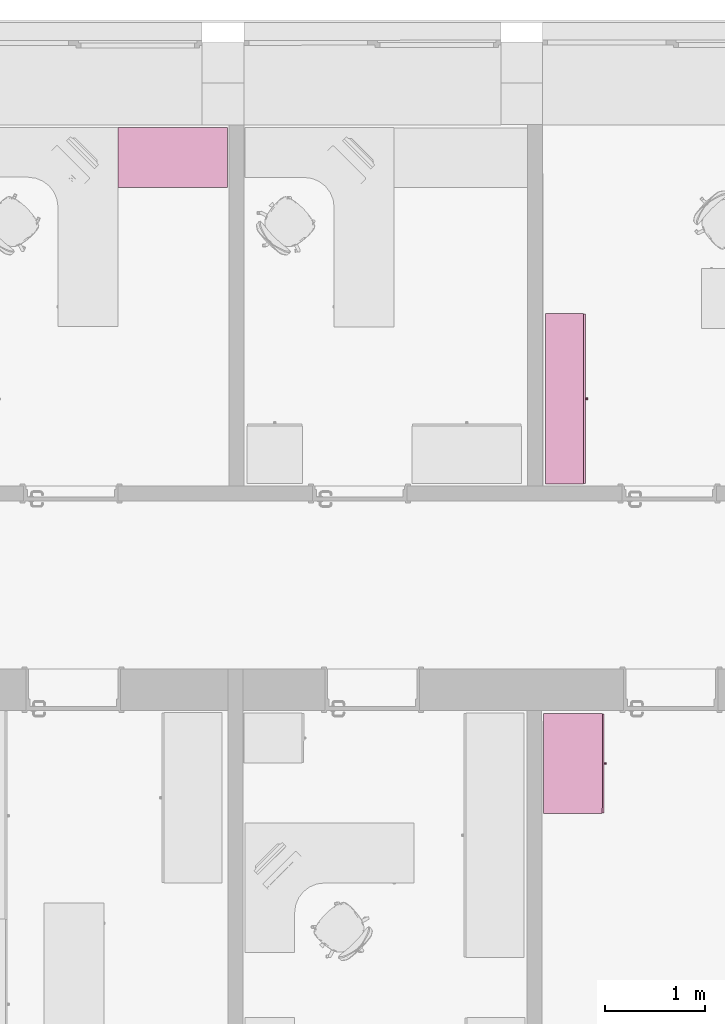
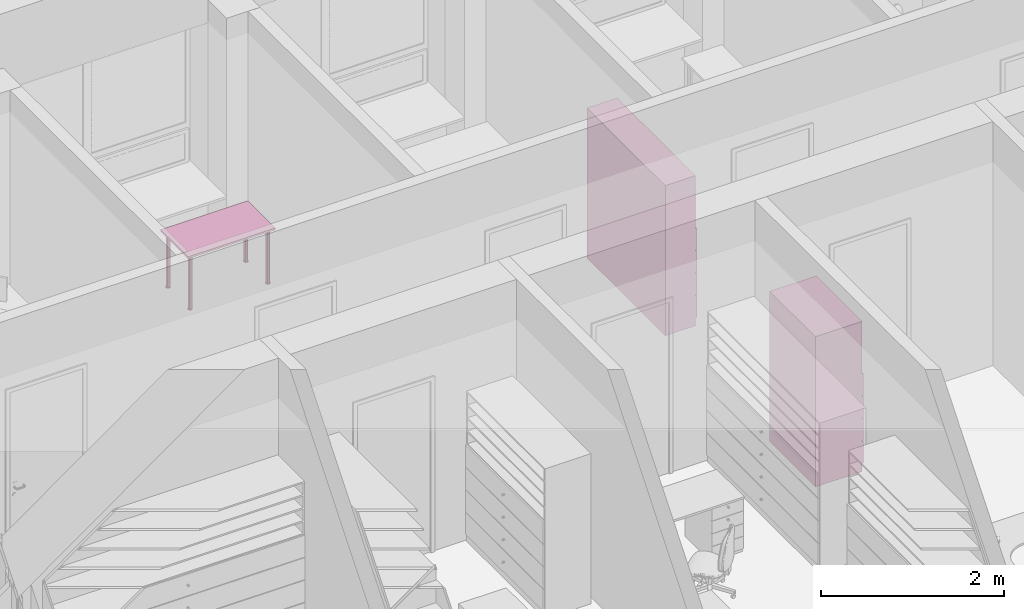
# One storey, part 143 of 194: 3 furnishings.
"""IFC2X3 building model written with IfcOpenShell, lengths in millimetres."""

from ifc_helpers import new_model, entity, si_unit, converted_unit, derived_unit, money_unit, direction, frame, origin_with_axes, place, context, subcontext, project, spatial, faceted_brep, source, transform, mapped, type_object, element, save


model = new_model("IFC2X3")

# Units and contexts
model_context = context("Model", 3, precision=1e-05, world=origin_with_axes(), true_north=direction((0.0, 1.0)))
body_context = subcontext(model_context, "Body", "Model", "MODEL_VIEW")
ifc_project = project(units=[si_unit("LENGTHUNIT", "METRE", prefix="MILLI"), si_unit("AREAUNIT", "SQUARE_METRE"), si_unit("VOLUMEUNIT", "CUBIC_METRE"), converted_unit("PLANEANGLEUNIT", "DEGREE", entity("IfcPlaneAngleMeasure", 0.0174532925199), si_unit("PLANEANGLEUNIT", "RADIAN"), dimensions=[0, 0, 0, 0, 0, 0, 0]), si_unit("SOLIDANGLEUNIT", "STERADIAN"), money_unit("EUR"), converted_unit("TIMEUNIT", "Year", entity("IfcTimeMeasure", 31556926.0), si_unit("TIMEUNIT", "SECOND"), dimensions=[0, 0, 1, 0, 0, 0, 0]), si_unit("MASSUNIT", "GRAM", prefix="KILO"), si_unit("THERMODYNAMICTEMPERATUREUNIT", "DEGREE_CELSIUS"), si_unit("LUMINOUSINTENSITYUNIT", "LUMEN"), si_unit("ENERGYUNIT", "JOULE", prefix="MEGA"), derived_unit("THERMALCONDUCTANCEUNIT", [(si_unit("POWERUNIT", "WATT"), 1), (si_unit("LENGTHUNIT", "METRE"), -1), (si_unit("THERMODYNAMICTEMPERATUREUNIT", "KELVIN"), -1)]), derived_unit("SPECIFICHEATCAPACITYUNIT", [(si_unit("ENERGYUNIT", "JOULE"), 1), (si_unit("MASSUNIT", "GRAM", prefix="KILO"), -1), (si_unit("THERMODYNAMICTEMPERATUREUNIT", "KELVIN"), -1)]), derived_unit("MASSDENSITYUNIT", [(si_unit("MASSUNIT", "GRAM", prefix="KILO"), 1), (si_unit("VOLUMEUNIT", "CUBIC_METRE"), -1)])], contexts=[model_context])

# Site, building, storey
site_placement = place(None, origin_with_axes())
site = spatial("IfcSite", under=ifc_project, at=site_placement, Name="Site", CompositionType="ELEMENT")
building_placement = place(site_placement, origin_with_axes())
building = spatial("IfcBuilding", under=site, at=building_placement, Name="Building", CompositionType="ELEMENT")
storey_placement = place(building_placement, frame((0.0, 0.0, 3000.0), z_axis=(0.0, 0.0, 1.0), x_axis=(1.0, 0.0, 0.0)))
storey = spatial("IfcBuildingStorey", under=building, at=storey_placement, Name="2 KORRUS", CompositionType="ELEMENT", Elevation=3000.0)

# Furnishings
furnishing_element_type_1 = type_object("IfcFurnishingElementType", Name="Model Element 120")
shared_shape_1 = source(origin_with_axes(), body_context, "Body", "Brep", [
    faceted_brep([(0.0, 0.0, 725.0), (1100.0, 0.0, 725.0), (1100.0, 0.0, 750.0), (0.0, 0.0, 750.0), (0.0, 600.0, 725.0), (1100.0, 600.0, 725.0), (1100.0, 600.0, 750.0), (0.0, 600.0, 750.0)], [[[0, 1, 2, 3]], [[0, 4, 5, 1]], [[1, 5, 6, 2]], [[3, 2, 6, 7]], [[4, 0, 3, 7]], [[5, 4, 7, 6]]]),
    faceted_brep([(77.6776695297, 77.6776695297, 10.0), (85.0, 60.0, 10.0), (77.6776695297, 42.3223304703, 10.0), (60.0, 35.0, 10.0), (42.3223304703, 42.3223304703, 10.0), (35.0, 60.0, 10.0), (42.3223304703, 77.6776695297, 10.0), (60.0, 85.0, 10.0), (77.6776695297, 77.6776695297, 725.0), (85.0, 60.0, 725.0), (77.6776695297, 42.3223304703, 725.0), (60.0, 35.0, 725.0), (42.3223304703, 42.3223304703, 725.0), (35.0, 60.0, 725.0), (42.3223304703, 77.6776695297, 725.0), (60.0, 85.0, 725.0)], [[[0, 1, 2, 3, 4, 5, 6, 7]], [[1, 0, 8, 9]], [[2, 1, 9, 10]], [[3, 2, 10, 11]], [[4, 3, 11, 12]], [[5, 4, 12, 13]], [[6, 5, 13, 14]], [[7, 6, 14, 15]], [[0, 7, 15, 8]], [[8, 15, 14, 13, 12, 11, 10, 9]]]),
    faceted_brep([(81.2132034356, 81.2132034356, 0.0), (90.0, 60.0, 0.0), (81.2132034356, 38.7867965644, 0.0), (60.0, 30.0, 0.0), (38.7867965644, 38.7867965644, 0.0), (30.0, 60.0, 0.0), (38.7867965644, 81.2132034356, 0.0), (60.0, 90.0, 0.0), (81.2132034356, 81.2132034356, 10.0), (90.0, 60.0, 10.0), (81.2132034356, 38.7867965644, 10.0), (60.0, 30.0, 10.0), (38.7867965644, 38.7867965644, 10.0), (30.0, 60.0, 10.0), (38.7867965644, 81.2132034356, 10.0), (60.0, 90.0, 10.0)], [[[0, 1, 2, 3, 4, 5, 6, 7]], [[1, 0, 8, 9]], [[2, 1, 9, 10]], [[3, 2, 10, 11]], [[4, 3, 11, 12]], [[5, 4, 12, 13]], [[6, 5, 13, 14]], [[7, 6, 14, 15]], [[0, 7, 15, 8]], [[8, 15, 14, 13, 12, 11, 10, 9]]]),
    faceted_brep([(77.6776695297, 557.67766953, 10.0), (85.0, 540.0, 10.0), (77.6776695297, 522.32233047, 10.0), (60.0, 515.0, 10.0), (42.3223304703, 522.32233047, 10.0), (35.0, 540.0, 10.0), (42.3223304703, 557.67766953, 10.0), (60.0, 565.0, 10.0), (77.6776695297, 557.67766953, 725.0), (85.0, 540.0, 725.0), (77.6776695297, 522.32233047, 725.0), (60.0, 515.0, 725.0), (42.3223304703, 522.32233047, 725.0), (35.0, 540.0, 725.0), (42.3223304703, 557.67766953, 725.0), (60.0, 565.0, 725.0)], [[[0, 1, 2, 3, 4, 5, 6, 7]], [[1, 0, 8, 9]], [[2, 1, 9, 10]], [[3, 2, 10, 11]], [[4, 3, 11, 12]], [[5, 4, 12, 13]], [[6, 5, 13, 14]], [[7, 6, 14, 15]], [[0, 7, 15, 8]], [[8, 15, 14, 13, 12, 11, 10, 9]]]),
    faceted_brep([(81.2132034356, 561.213203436, 0.0), (90.0, 540.0, 0.0), (81.2132034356, 518.786796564, 0.0), (60.0, 510.0, 0.0), (38.7867965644, 518.786796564, 0.0), (30.0, 540.0, 0.0), (38.7867965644, 561.213203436, 0.0), (60.0, 570.0, 0.0), (81.2132034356, 561.213203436, 10.0), (90.0, 540.0, 10.0), (81.2132034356, 518.786796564, 10.0), (60.0, 510.0, 10.0), (38.7867965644, 518.786796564, 10.0), (30.0, 540.0, 10.0), (38.7867965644, 561.213203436, 10.0), (60.0, 570.0, 10.0)], [[[0, 1, 2, 3, 4, 5, 6, 7]], [[1, 0, 8, 9]], [[2, 1, 9, 10]], [[3, 2, 10, 11]], [[4, 3, 11, 12]], [[5, 4, 12, 13]], [[6, 5, 13, 14]], [[7, 6, 14, 15]], [[0, 7, 15, 8]], [[8, 15, 14, 13, 12, 11, 10, 9]]]),
    faceted_brep([(1057.67766953, 77.6776695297, 10.0), (1065.0, 60.0, 10.0), (1057.67766953, 42.3223304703, 10.0), (1040.0, 35.0, 10.0), (1022.32233047, 42.3223304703, 10.0), (1015.0, 60.0, 10.0), (1022.32233047, 77.6776695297, 10.0), (1040.0, 85.0, 10.0), (1057.67766953, 77.6776695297, 725.0), (1065.0, 60.0, 725.0), (1057.67766953, 42.3223304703, 725.0), (1040.0, 35.0, 725.0), (1022.32233047, 42.3223304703, 725.0), (1015.0, 60.0, 725.0), (1022.32233047, 77.6776695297, 725.0), (1040.0, 85.0, 725.0)], [[[0, 1, 2, 3, 4, 5, 6, 7]], [[1, 0, 8, 9]], [[2, 1, 9, 10]], [[3, 2, 10, 11]], [[4, 3, 11, 12]], [[5, 4, 12, 13]], [[6, 5, 13, 14]], [[7, 6, 14, 15]], [[0, 7, 15, 8]], [[8, 15, 14, 13, 12, 11, 10, 9]]]),
    faceted_brep([(1061.21320344, 81.2132034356, 0.0), (1070.0, 60.0, 0.0), (1061.21320344, 38.7867965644, 0.0), (1040.0, 30.0, 0.0), (1018.78679656, 38.7867965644, 0.0), (1010.0, 60.0, 0.0), (1018.78679656, 81.2132034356, 0.0), (1040.0, 90.0, 0.0), (1061.21320344, 81.2132034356, 10.0), (1070.0, 60.0, 10.0), (1061.21320344, 38.7867965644, 10.0), (1040.0, 30.0, 10.0), (1018.78679656, 38.7867965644, 10.0), (1010.0, 60.0, 10.0), (1018.78679656, 81.2132034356, 10.0), (1040.0, 90.0, 10.0)], [[[0, 1, 2, 3, 4, 5, 6, 7]], [[1, 0, 8, 9]], [[2, 1, 9, 10]], [[3, 2, 10, 11]], [[4, 3, 11, 12]], [[5, 4, 12, 13]], [[6, 5, 13, 14]], [[7, 6, 14, 15]], [[0, 7, 15, 8]], [[8, 15, 14, 13, 12, 11, 10, 9]]]),
    faceted_brep([(1057.67766953, 557.67766953, 10.0), (1065.0, 540.0, 10.0), (1057.67766953, 522.32233047, 10.0), (1040.0, 515.0, 10.0), (1022.32233047, 522.32233047, 10.0), (1015.0, 540.0, 10.0), (1022.32233047, 557.67766953, 10.0), (1040.0, 565.0, 10.0), (1057.67766953, 557.67766953, 725.0), (1065.0, 540.0, 725.0), (1057.67766953, 522.32233047, 725.0), (1040.0, 515.0, 725.0), (1022.32233047, 522.32233047, 725.0), (1015.0, 540.0, 725.0), (1022.32233047, 557.67766953, 725.0), (1040.0, 565.0, 725.0)], [[[0, 1, 2, 3, 4, 5, 6, 7]], [[1, 0, 8, 9]], [[2, 1, 9, 10]], [[3, 2, 10, 11]], [[4, 3, 11, 12]], [[5, 4, 12, 13]], [[6, 5, 13, 14]], [[7, 6, 14, 15]], [[0, 7, 15, 8]], [[8, 15, 14, 13, 12, 11, 10, 9]]]),
    faceted_brep([(1061.21320344, 561.213203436, 0.0), (1070.0, 540.0, 0.0), (1061.21320344, 518.786796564, 0.0), (1040.0, 510.0, 0.0), (1018.78679656, 518.786796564, 0.0), (1010.0, 540.0, 0.0), (1018.78679656, 561.213203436, 0.0), (1040.0, 570.0, 0.0), (1061.21320344, 561.213203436, 10.0), (1070.0, 540.0, 10.0), (1061.21320344, 518.786796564, 10.0), (1040.0, 510.0, 10.0), (1018.78679656, 518.786796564, 10.0), (1010.0, 540.0, 10.0), (1018.78679656, 561.213203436, 10.0), (1040.0, 570.0, 10.0)], [[[0, 1, 2, 3, 4, 5, 6, 7]], [[1, 0, 8, 9]], [[2, 1, 9, 10]], [[3, 2, 10, 11]], [[4, 3, 11, 12]], [[5, 4, 12, 13]], [[6, 5, 13, 14]], [[7, 6, 14, 15]], [[0, 7, 15, 8]], [[8, 15, 14, 13, 12, 11, 10, 9]]]),
])
furnishing_1_placement = place(storey_placement, frame((24994.9487337, 71062.337507, 0.0), z_axis=(0.0, 0.0, 1.0), x_axis=(-1.0, 0.0, 0.0)))
element("IfcFurnishingElement", 1, at=furnishing_1_placement, inside=storey, type_object=furnishing_element_type_1, Name="FU - 007", context=body_context, shape_type="MappedRepresentation", body=[
    mapped(shared_shape_1, transform((0.0, 0.0, 0.0))),
])
furnishing_element_type_2 = type_object("IfcFurnishingElementType", Name="Model Element 113")
shared_shape_2 = source(origin_with_axes(), body_context, "Body", "Brep", [
    faceted_brep([(-1709.22062814, 19.0, 0.0), (-1709.22062814, 400.0, 0.0), (0.0, 400.0, 0.0), (0.0, 19.0, 0.0), (-1709.22062814, 19.0, 100.0), (-1709.22062814, 400.0, 100.0), (0.0, 400.0, 100.0), (0.0, 19.0, 100.0)], [[[0, 1, 2, 3]], [[0, 4, 5, 1]], [[1, 5, 6, 2]], [[2, 6, 7, 3]], [[3, 7, 4, 0]], [[7, 6, 5, 4]]]),
    faceted_brep([(-19.0, 400.0, 119.0), (-19.0, 400.0, 1981.0), (-19.0, 381.0, 1981.0), (-19.0, 381.0, 119.0), (-1690.22062814, 400.0, 119.0), (-1690.22062814, 400.0, 1981.0), (-1690.22062814, 381.0, 1981.0), (-1690.22062814, 381.0, 119.0)], [[[0, 1, 2, 3]], [[4, 5, 1, 0]], [[1, 5, 6, 2]], [[3, 2, 6, 7]], [[0, 3, 7, 4]], [[7, 6, 5, 4]]]),
    faceted_brep([(-1709.22062814, 19.0, 100.0), (-1709.22062814, 400.0, 100.0), (-1690.22062814, 400.0, 100.0), (-1690.22062814, 19.0, 100.0), (-1709.22062814, 19.0, 2000.0), (-1709.22062814, 400.0, 2000.0), (-1690.22062814, 400.0, 2000.0), (-1690.22062814, 19.0, 2000.0)], [[[0, 1, 2, 3]], [[0, 4, 5, 1]], [[1, 5, 6, 2]], [[2, 6, 7, 3]], [[3, 7, 4, 0]], [[7, 6, 5, 4]]]),
    faceted_brep([(-19.0, 19.0, 100.0), (-19.0, 400.0, 100.0), (0.0, 400.0, 100.0), (0.0, 19.0, 100.0), (-19.0, 19.0, 2000.0), (-19.0, 400.0, 2000.0), (0.0, 400.0, 2000.0), (0.0, 19.0, 2000.0)], [[[0, 1, 2, 3]], [[0, 4, 5, 1]], [[1, 5, 6, 2]], [[2, 6, 7, 3]], [[3, 7, 4, 0]], [[7, 6, 5, 4]]]),
    faceted_brep([(-1690.22062814, 19.0, 100.0), (-1690.22062814, 400.0, 100.0), (-19.0, 400.0, 100.0), (-19.0, 19.0, 100.0), (-1690.22062814, 19.0, 119.0), (-1690.22062814, 400.0, 119.0), (-19.0, 400.0, 119.0), (-19.0, 19.0, 119.0)], [[[0, 1, 2, 3]], [[0, 4, 5, 1]], [[1, 5, 6, 2]], [[2, 6, 7, 3]], [[3, 7, 4, 0]], [[7, 6, 5, 4]]]),
    faceted_brep([(-1690.22062814, 19.0, 1981.0), (-1690.22062814, 400.0, 1981.0), (-19.0, 400.0, 1981.0), (-19.0, 19.0, 1981.0), (-1690.22062814, 19.0, 2000.0), (-1690.22062814, 400.0, 2000.0), (-19.0, 400.0, 2000.0), (-19.0, 19.0, 2000.0)], [[[0, 1, 2, 3]], [[0, 4, 5, 1]], [[1, 5, 6, 2]], [[2, 6, 7, 3]], [[3, 7, 4, 0]], [[7, 6, 5, 4]]]),
    faceted_brep([(-5.0, 19.0, 105.0), (-5.0, 0.0, 105.0), (-1704.22062814, 0.0, 105.0), (-1704.22062814, 19.0, 105.0), (-5.0, 19.0, 395.0), (-5.0, 0.0, 395.0), (-1704.22062814, 0.0, 395.0), (-1704.22062814, 19.0, 395.0)], [[[0, 1, 2, 3]], [[4, 5, 1, 0]], [[1, 5, 6, 2]], [[3, 2, 6, 7]], [[0, 3, 7, 4]], [[7, 6, 5, 4]]]),
    faceted_brep([(-865.002618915, 0.0, 244.0), (-866.610314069, 0.0, 250.0), (-865.002618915, 0.0, 256.0), (-860.610314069, 0.0, 260.392304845), (-854.610314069, 0.0, 262.0), (-848.610314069, 0.0, 260.392304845), (-844.218009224, 0.0, 256.0), (-842.610314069, 0.0, 250.0), (-844.218009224, 0.0, 244.0), (-848.610314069, 0.0, 239.607695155), (-854.610314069, 0.0, 238.0), (-860.610314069, 0.0, 239.607695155), (-865.002618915, -25.0, 244.0), (-866.610314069, -25.0, 250.0), (-865.002618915, -25.0, 256.0), (-860.610314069, -25.0, 260.392304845), (-854.610314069, -25.0, 262.0), (-848.610314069, -25.0, 260.392304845), (-844.218009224, -25.0, 256.0), (-842.610314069, -25.0, 250.0), (-844.218009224, -25.0, 244.0), (-848.610314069, -25.0, 239.607695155), (-854.610314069, -25.0, 238.0), (-860.610314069, -25.0, 239.607695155)], [[[0, 1, 2, 3, 4, 5, 6, 7, 8, 9, 10, 11]], [[0, 12, 13, 1]], [[1, 13, 14, 2]], [[2, 14, 15, 3]], [[3, 15, 16, 4]], [[4, 16, 17, 5]], [[5, 17, 18, 6]], [[6, 18, 19, 7]], [[7, 19, 20, 8]], [[8, 20, 21, 9]], [[9, 21, 22, 10]], [[10, 22, 23, 11]], [[11, 23, 12, 0]], [[12, 23, 22, 21, 20, 19, 18, 17, 16, 15, 14, 13]]]),
    faceted_brep([(-5.0, 19.0, 405.0), (-5.0, 0.0, 405.0), (-1704.22062814, 0.0, 405.0), (-1704.22062814, 19.0, 405.0), (-5.0, 19.0, 695.0), (-5.0, 0.0, 695.0), (-1704.22062814, 0.0, 695.0), (-1704.22062814, 19.0, 695.0)], [[[0, 1, 2, 3]], [[4, 5, 1, 0]], [[1, 5, 6, 2]], [[3, 2, 6, 7]], [[0, 3, 7, 4]], [[7, 6, 5, 4]]]),
    faceted_brep([(-865.002618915, 0.0, 544.0), (-866.610314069, 0.0, 550.0), (-865.002618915, 0.0, 556.0), (-860.610314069, 0.0, 560.392304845), (-854.610314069, 0.0, 562.0), (-848.610314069, 0.0, 560.392304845), (-844.218009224, 0.0, 556.0), (-842.610314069, 0.0, 550.0), (-844.218009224, 0.0, 544.0), (-848.610314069, 0.0, 539.607695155), (-854.610314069, 0.0, 538.0), (-860.610314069, 0.0, 539.607695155), (-865.002618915, -25.0, 544.0), (-866.610314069, -25.0, 550.0), (-865.002618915, -25.0, 556.0), (-860.610314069, -25.0, 560.392304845), (-854.610314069, -25.0, 562.0), (-848.610314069, -25.0, 560.392304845), (-844.218009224, -25.0, 556.0), (-842.610314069, -25.0, 550.0), (-844.218009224, -25.0, 544.0), (-848.610314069, -25.0, 539.607695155), (-854.610314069, -25.0, 538.0), (-860.610314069, -25.0, 539.607695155)], [[[0, 1, 2, 3, 4, 5, 6, 7, 8, 9, 10, 11]], [[0, 12, 13, 1]], [[1, 13, 14, 2]], [[2, 14, 15, 3]], [[3, 15, 16, 4]], [[4, 16, 17, 5]], [[5, 17, 18, 6]], [[6, 18, 19, 7]], [[7, 19, 20, 8]], [[8, 20, 21, 9]], [[9, 21, 22, 10]], [[10, 22, 23, 11]], [[11, 23, 12, 0]], [[12, 23, 22, 21, 20, 19, 18, 17, 16, 15, 14, 13]]]),
    faceted_brep([(-5.0, 19.0, 705.0), (-5.0, 0.0, 705.0), (-1704.22062814, 0.0, 705.0), (-1704.22062814, 19.0, 705.0), (-5.0, 19.0, 995.0), (-5.0, 0.0, 995.0), (-1704.22062814, 0.0, 995.0), (-1704.22062814, 19.0, 995.0)], [[[0, 1, 2, 3]], [[4, 5, 1, 0]], [[1, 5, 6, 2]], [[3, 2, 6, 7]], [[0, 3, 7, 4]], [[7, 6, 5, 4]]]),
    faceted_brep([(-865.002618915, 0.0, 844.0), (-866.610314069, 0.0, 850.0), (-865.002618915, 0.0, 856.0), (-860.610314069, 0.0, 860.392304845), (-854.610314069, 0.0, 862.0), (-848.610314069, 0.0, 860.392304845), (-844.218009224, 0.0, 856.0), (-842.610314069, 0.0, 850.0), (-844.218009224, 0.0, 844.0), (-848.610314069, 0.0, 839.607695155), (-854.610314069, 0.0, 838.0), (-860.610314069, 0.0, 839.607695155), (-865.002618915, -25.0, 844.0), (-866.610314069, -25.0, 850.0), (-865.002618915, -25.0, 856.0), (-860.610314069, -25.0, 860.392304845), (-854.610314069, -25.0, 862.0), (-848.610314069, -25.0, 860.392304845), (-844.218009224, -25.0, 856.0), (-842.610314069, -25.0, 850.0), (-844.218009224, -25.0, 844.0), (-848.610314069, -25.0, 839.607695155), (-854.610314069, -25.0, 838.0), (-860.610314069, -25.0, 839.607695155)], [[[0, 1, 2, 3, 4, 5, 6, 7, 8, 9, 10, 11]], [[0, 12, 13, 1]], [[1, 13, 14, 2]], [[2, 14, 15, 3]], [[3, 15, 16, 4]], [[4, 16, 17, 5]], [[5, 17, 18, 6]], [[6, 18, 19, 7]], [[7, 19, 20, 8]], [[8, 20, 21, 9]], [[9, 21, 22, 10]], [[10, 22, 23, 11]], [[11, 23, 12, 0]], [[12, 23, 22, 21, 20, 19, 18, 17, 16, 15, 14, 13]]]),
    faceted_brep([(-5.0, 19.0, 1005.0), (-5.0, 0.0, 1005.0), (-1704.22062814, 0.0, 1005.0), (-1704.22062814, 19.0, 1005.0), (-5.0, 19.0, 1295.0), (-5.0, 0.0, 1295.0), (-1704.22062814, 0.0, 1295.0), (-1704.22062814, 19.0, 1295.0)], [[[0, 1, 2, 3]], [[4, 5, 1, 0]], [[1, 5, 6, 2]], [[3, 2, 6, 7]], [[0, 3, 7, 4]], [[7, 6, 5, 4]]]),
    faceted_brep([(-865.002618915, 0.0, 1144.0), (-866.610314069, 0.0, 1150.0), (-865.002618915, 0.0, 1156.0), (-860.610314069, 0.0, 1160.39230485), (-854.610314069, 0.0, 1162.0), (-848.610314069, 0.0, 1160.39230485), (-844.218009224, 0.0, 1156.0), (-842.610314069, 0.0, 1150.0), (-844.218009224, 0.0, 1144.0), (-848.610314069, 0.0, 1139.60769515), (-854.610314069, 0.0, 1138.0), (-860.610314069, 0.0, 1139.60769515), (-865.002618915, -25.0, 1144.0), (-866.610314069, -25.0, 1150.0), (-865.002618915, -25.0, 1156.0), (-860.610314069, -25.0, 1160.39230485), (-854.610314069, -25.0, 1162.0), (-848.610314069, -25.0, 1160.39230485), (-844.218009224, -25.0, 1156.0), (-842.610314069, -25.0, 1150.0), (-844.218009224, -25.0, 1144.0), (-848.610314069, -25.0, 1139.60769515), (-854.610314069, -25.0, 1138.0), (-860.610314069, -25.0, 1139.60769515)], [[[0, 1, 2, 3, 4, 5, 6, 7, 8, 9, 10, 11]], [[0, 12, 13, 1]], [[1, 13, 14, 2]], [[2, 14, 15, 3]], [[3, 15, 16, 4]], [[4, 16, 17, 5]], [[5, 17, 18, 6]], [[6, 18, 19, 7]], [[7, 19, 20, 8]], [[8, 20, 21, 9]], [[9, 21, 22, 10]], [[10, 22, 23, 11]], [[11, 23, 12, 0]], [[12, 23, 22, 21, 20, 19, 18, 17, 16, 15, 14, 13]]]),
    faceted_brep([(-19.0, 19.0, 390.5), (-19.0, 19.0, 409.5), (-1690.22062814, 19.0, 409.5), (-1690.22062814, 19.0, 390.5), (-19.0, 381.0, 390.5), (-19.0, 381.0, 409.5), (-1690.22062814, 381.0, 409.5), (-1690.22062814, 381.0, 390.5)], [[[0, 1, 2, 3]], [[4, 5, 1, 0]], [[1, 5, 6, 2]], [[3, 2, 6, 7]], [[0, 3, 7, 4]], [[7, 6, 5, 4]]]),
    faceted_brep([(-19.0, 19.0, 690.5), (-19.0, 19.0, 709.5), (-1690.22062814, 19.0, 709.5), (-1690.22062814, 19.0, 690.5), (-19.0, 381.0, 690.5), (-19.0, 381.0, 709.5), (-1690.22062814, 381.0, 709.5), (-1690.22062814, 381.0, 690.5)], [[[0, 1, 2, 3]], [[4, 5, 1, 0]], [[1, 5, 6, 2]], [[3, 2, 6, 7]], [[0, 3, 7, 4]], [[7, 6, 5, 4]]]),
    faceted_brep([(-19.0, 19.0, 990.5), (-19.0, 19.0, 1009.5), (-1690.22062814, 19.0, 1009.5), (-1690.22062814, 19.0, 990.5), (-19.0, 381.0, 990.5), (-19.0, 381.0, 1009.5), (-1690.22062814, 381.0, 1009.5), (-1690.22062814, 381.0, 990.5)], [[[0, 1, 2, 3]], [[4, 5, 1, 0]], [[1, 5, 6, 2]], [[3, 2, 6, 7]], [[0, 3, 7, 4]], [[7, 6, 5, 4]]]),
    faceted_brep([(-19.0, 19.0, 1290.5), (-19.0, 19.0, 1309.5), (-1690.22062814, 19.0, 1309.5), (-1690.22062814, 19.0, 1290.5), (-19.0, 381.0, 1290.5), (-19.0, 381.0, 1309.5), (-1690.22062814, 381.0, 1309.5), (-1690.22062814, 381.0, 1290.5)], [[[0, 1, 2, 3]], [[4, 5, 1, 0]], [[1, 5, 6, 2]], [[3, 2, 6, 7]], [[0, 3, 7, 4]], [[7, 6, 5, 4]]]),
    faceted_brep([(-1690.22062814, 19.0, 1463.125), (-1690.22062814, 381.0, 1463.125), (-19.0, 381.0, 1463.125), (-19.0, 19.0, 1463.125), (-1690.22062814, 19.0, 1482.125), (-1690.22062814, 381.0, 1482.125), (-19.0, 381.0, 1482.125), (-19.0, 19.0, 1482.125)], [[[0, 1, 2, 3]], [[0, 4, 5, 1]], [[1, 5, 6, 2]], [[2, 6, 7, 3]], [[3, 7, 4, 0]], [[7, 6, 5, 4]]]),
    faceted_brep([(-1690.22062814, 19.0, 1635.75), (-1690.22062814, 381.0, 1635.75), (-19.0, 381.0, 1635.75), (-19.0, 19.0, 1635.75), (-1690.22062814, 19.0, 1654.75), (-1690.22062814, 381.0, 1654.75), (-19.0, 381.0, 1654.75), (-19.0, 19.0, 1654.75)], [[[0, 1, 2, 3]], [[0, 4, 5, 1]], [[1, 5, 6, 2]], [[2, 6, 7, 3]], [[3, 7, 4, 0]], [[7, 6, 5, 4]]]),
    faceted_brep([(-1690.22062814, 19.0, 1808.375), (-1690.22062814, 381.0, 1808.375), (-19.0, 381.0, 1808.375), (-19.0, 19.0, 1808.375), (-1690.22062814, 19.0, 1827.375), (-1690.22062814, 381.0, 1827.375), (-19.0, 381.0, 1827.375), (-19.0, 19.0, 1827.375)], [[[0, 1, 2, 3]], [[0, 4, 5, 1]], [[1, 5, 6, 2]], [[2, 6, 7, 3]], [[3, 7, 4, 0]], [[7, 6, 5, 4]]]),
])
furnishing_2_placement = place(storey_placement, frame((28587.974018, 69196.5611736, 0.0), z_axis=(0.0, 0.0, 1.0), x_axis=(0.0, 1.0, 0.0)))
element("IfcFurnishingElement", 2, at=furnishing_2_placement, inside=storey, type_object=furnishing_element_type_2, Name="FU - 001", context=body_context, shape_type="MappedRepresentation", body=[
    mapped(shared_shape_2, transform((0.0, 0.0, 0.0))),
])
furnishing_element_type_3 = type_object("IfcFurnishingElementType", Name="Model Element 30")
shared_shape_3 = source(origin_with_axes(), body_context, "Body", "Brep", [
    faceted_brep([(1000.0, 19.0, 0.0), (0.0, 19.0, 0.0), (0.0, 607.542755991, 0.0), (1000.0, 607.542755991, 0.0), (1000.0, 19.0, 100.0), (0.0, 19.0, 100.0), (0.0, 607.542755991, 100.0), (1000.0, 607.542755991, 100.0)], [[[0, 1, 2, 3]], [[1, 0, 4, 5]], [[2, 1, 5, 6]], [[3, 2, 6, 7]], [[0, 3, 7, 4]], [[5, 4, 7, 6]]]),
    faceted_brep([(19.0, 607.542755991, 119.0), (19.0, 588.542755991, 119.0), (19.0, 588.542755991, 1981.0), (19.0, 607.542755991, 1981.0), (981.0, 607.542755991, 119.0), (981.0, 588.542755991, 119.0), (981.0, 588.542755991, 1981.0), (981.0, 607.542755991, 1981.0)], [[[0, 1, 2, 3]], [[0, 4, 5, 1]], [[1, 5, 6, 2]], [[3, 2, 6, 7]], [[4, 0, 3, 7]], [[5, 4, 7, 6]]]),
    faceted_brep([(1000.0, 19.0, 100.0), (981.0, 19.0, 100.0), (981.0, 607.542755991, 100.0), (1000.0, 607.542755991, 100.0), (1000.0, 19.0, 2000.0), (981.0, 19.0, 2000.0), (981.0, 607.542755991, 2000.0), (1000.0, 607.542755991, 2000.0)], [[[0, 1, 2, 3]], [[1, 0, 4, 5]], [[2, 1, 5, 6]], [[3, 2, 6, 7]], [[0, 3, 7, 4]], [[5, 4, 7, 6]]]),
    faceted_brep([(19.0, 19.0, 100.0), (0.0, 19.0, 100.0), (0.0, 607.542755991, 100.0), (19.0, 607.542755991, 100.0), (19.0, 19.0, 2000.0), (0.0, 19.0, 2000.0), (0.0, 607.542755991, 2000.0), (19.0, 607.542755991, 2000.0)], [[[0, 1, 2, 3]], [[1, 0, 4, 5]], [[2, 1, 5, 6]], [[3, 2, 6, 7]], [[0, 3, 7, 4]], [[5, 4, 7, 6]]]),
    faceted_brep([(981.0, 19.0, 100.0), (19.0, 19.0, 100.0), (19.0, 607.542755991, 100.0), (981.0, 607.542755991, 100.0), (981.0, 19.0, 119.0), (19.0, 19.0, 119.0), (19.0, 607.542755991, 119.0), (981.0, 607.542755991, 119.0)], [[[0, 1, 2, 3]], [[1, 0, 4, 5]], [[2, 1, 5, 6]], [[3, 2, 6, 7]], [[0, 3, 7, 4]], [[5, 4, 7, 6]]]),
    faceted_brep([(981.0, 19.0, 1981.0), (19.0, 19.0, 1981.0), (19.0, 607.542755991, 1981.0), (981.0, 607.542755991, 1981.0), (981.0, 19.0, 2000.0), (19.0, 19.0, 2000.0), (19.0, 607.542755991, 2000.0), (981.0, 607.542755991, 2000.0)], [[[0, 1, 2, 3]], [[1, 0, 4, 5]], [[2, 1, 5, 6]], [[3, 2, 6, 7]], [[0, 3, 7, 4]], [[5, 4, 7, 6]]]),
    faceted_brep([(5.0, 19.0, 105.0), (995.0, 19.0, 105.0), (995.0, 0.0, 105.0), (5.0, 0.0, 105.0), (5.0, 19.0, 395.0), (995.0, 19.0, 395.0), (995.0, 0.0, 395.0), (5.0, 0.0, 395.0)], [[[0, 1, 2, 3]], [[0, 4, 5, 1]], [[1, 5, 6, 2]], [[3, 2, 6, 7]], [[4, 0, 3, 7]], [[5, 4, 7, 6]]]),
    faceted_brep([(510.392304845, 0.0, 244.0), (506.0, 0.0, 239.607695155), (500.0, 0.0, 238.0), (494.0, 0.0, 239.607695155), (489.607695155, 0.0, 244.0), (488.0, 0.0, 250.0), (489.607695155, 0.0, 256.0), (494.0, 0.0, 260.392304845), (500.0, 0.0, 262.0), (506.0, 0.0, 260.392304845), (510.392304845, 0.0, 256.0), (512.0, 0.0, 250.0), (510.392304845, -25.0, 244.0), (506.0, -25.0, 239.607695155), (500.0, -25.0, 238.0), (494.0, -25.0, 239.607695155), (489.607695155, -25.0, 244.0), (488.0, -25.0, 250.0), (489.607695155, -25.0, 256.0), (494.0, -25.0, 260.392304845), (500.0, -25.0, 262.0), (506.0, -25.0, 260.392304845), (510.392304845, -25.0, 256.0), (512.0, -25.0, 250.0)], [[[0, 1, 2, 3, 4, 5, 6, 7, 8, 9, 10, 11]], [[1, 0, 12, 13]], [[2, 1, 13, 14]], [[3, 2, 14, 15]], [[4, 3, 15, 16]], [[5, 4, 16, 17]], [[6, 5, 17, 18]], [[7, 6, 18, 19]], [[8, 7, 19, 20]], [[9, 8, 20, 21]], [[10, 9, 21, 22]], [[11, 10, 22, 23]], [[0, 11, 23, 12]], [[12, 23, 22, 21, 20, 19, 18, 17, 16, 15, 14, 13]]]),
    faceted_brep([(5.0, 19.0, 405.0), (995.0, 19.0, 405.0), (995.0, 0.0, 405.0), (5.0, 0.0, 405.0), (5.0, 19.0, 695.0), (995.0, 19.0, 695.0), (995.0, 0.0, 695.0), (5.0, 0.0, 695.0)], [[[0, 1, 2, 3]], [[0, 4, 5, 1]], [[1, 5, 6, 2]], [[3, 2, 6, 7]], [[4, 0, 3, 7]], [[5, 4, 7, 6]]]),
    faceted_brep([(510.392304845, 0.0, 544.0), (506.0, 0.0, 539.607695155), (500.0, 0.0, 538.0), (494.0, 0.0, 539.607695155), (489.607695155, 0.0, 544.0), (488.0, 0.0, 550.0), (489.607695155, 0.0, 556.0), (494.0, 0.0, 560.392304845), (500.0, 0.0, 562.0), (506.0, 0.0, 560.392304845), (510.392304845, 0.0, 556.0), (512.0, 0.0, 550.0), (510.392304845, -25.0, 544.0), (506.0, -25.0, 539.607695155), (500.0, -25.0, 538.0), (494.0, -25.0, 539.607695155), (489.607695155, -25.0, 544.0), (488.0, -25.0, 550.0), (489.607695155, -25.0, 556.0), (494.0, -25.0, 560.392304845), (500.0, -25.0, 562.0), (506.0, -25.0, 560.392304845), (510.392304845, -25.0, 556.0), (512.0, -25.0, 550.0)], [[[0, 1, 2, 3, 4, 5, 6, 7, 8, 9, 10, 11]], [[1, 0, 12, 13]], [[2, 1, 13, 14]], [[3, 2, 14, 15]], [[4, 3, 15, 16]], [[5, 4, 16, 17]], [[6, 5, 17, 18]], [[7, 6, 18, 19]], [[8, 7, 19, 20]], [[9, 8, 20, 21]], [[10, 9, 21, 22]], [[11, 10, 22, 23]], [[0, 11, 23, 12]], [[12, 23, 22, 21, 20, 19, 18, 17, 16, 15, 14, 13]]]),
    faceted_brep([(5.0, 19.0, 705.0), (995.0, 19.0, 705.0), (995.0, 0.0, 705.0), (5.0, 0.0, 705.0), (5.0, 19.0, 995.0), (995.0, 19.0, 995.0), (995.0, 0.0, 995.0), (5.0, 0.0, 995.0)], [[[0, 1, 2, 3]], [[0, 4, 5, 1]], [[1, 5, 6, 2]], [[3, 2, 6, 7]], [[4, 0, 3, 7]], [[5, 4, 7, 6]]]),
    faceted_brep([(510.392304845, 0.0, 844.0), (506.0, 0.0, 839.607695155), (500.0, 0.0, 838.0), (494.0, 0.0, 839.607695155), (489.607695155, 0.0, 844.0), (488.0, 0.0, 850.0), (489.607695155, 0.0, 856.0), (494.0, 0.0, 860.392304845), (500.0, 0.0, 862.0), (506.0, 0.0, 860.392304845), (510.392304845, 0.0, 856.0), (512.0, 0.0, 850.0), (510.392304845, -25.0, 844.0), (506.0, -25.0, 839.607695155), (500.0, -25.0, 838.0), (494.0, -25.0, 839.607695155), (489.607695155, -25.0, 844.0), (488.0, -25.0, 850.0), (489.607695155, -25.0, 856.0), (494.0, -25.0, 860.392304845), (500.0, -25.0, 862.0), (506.0, -25.0, 860.392304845), (510.392304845, -25.0, 856.0), (512.0, -25.0, 850.0)], [[[0, 1, 2, 3, 4, 5, 6, 7, 8, 9, 10, 11]], [[1, 0, 12, 13]], [[2, 1, 13, 14]], [[3, 2, 14, 15]], [[4, 3, 15, 16]], [[5, 4, 16, 17]], [[6, 5, 17, 18]], [[7, 6, 18, 19]], [[8, 7, 19, 20]], [[9, 8, 20, 21]], [[10, 9, 21, 22]], [[11, 10, 22, 23]], [[0, 11, 23, 12]], [[12, 23, 22, 21, 20, 19, 18, 17, 16, 15, 14, 13]]]),
    faceted_brep([(5.0, 19.0, 1005.0), (995.0, 19.0, 1005.0), (995.0, 0.0, 1005.0), (5.0, 0.0, 1005.0), (5.0, 19.0, 1295.0), (995.0, 19.0, 1295.0), (995.0, 0.0, 1295.0), (5.0, 0.0, 1295.0)], [[[0, 1, 2, 3]], [[0, 4, 5, 1]], [[1, 5, 6, 2]], [[3, 2, 6, 7]], [[4, 0, 3, 7]], [[5, 4, 7, 6]]]),
    faceted_brep([(510.392304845, 0.0, 1144.0), (506.0, 0.0, 1139.60769515), (500.0, 0.0, 1138.0), (494.0, 0.0, 1139.60769515), (489.607695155, 0.0, 1144.0), (488.0, 0.0, 1150.0), (489.607695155, 0.0, 1156.0), (494.0, 0.0, 1160.39230485), (500.0, 0.0, 1162.0), (506.0, 0.0, 1160.39230485), (510.392304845, 0.0, 1156.0), (512.0, 0.0, 1150.0), (510.392304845, -25.0, 1144.0), (506.0, -25.0, 1139.60769515), (500.0, -25.0, 1138.0), (494.0, -25.0, 1139.60769515), (489.607695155, -25.0, 1144.0), (488.0, -25.0, 1150.0), (489.607695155, -25.0, 1156.0), (494.0, -25.0, 1160.39230485), (500.0, -25.0, 1162.0), (506.0, -25.0, 1160.39230485), (510.392304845, -25.0, 1156.0), (512.0, -25.0, 1150.0)], [[[0, 1, 2, 3, 4, 5, 6, 7, 8, 9, 10, 11]], [[1, 0, 12, 13]], [[2, 1, 13, 14]], [[3, 2, 14, 15]], [[4, 3, 15, 16]], [[5, 4, 16, 17]], [[6, 5, 17, 18]], [[7, 6, 18, 19]], [[8, 7, 19, 20]], [[9, 8, 20, 21]], [[10, 9, 21, 22]], [[11, 10, 22, 23]], [[0, 11, 23, 12]], [[12, 23, 22, 21, 20, 19, 18, 17, 16, 15, 14, 13]]]),
    faceted_brep([(19.0, 19.0, 390.5), (981.0, 19.0, 390.5), (981.0, 19.0, 409.5), (19.0, 19.0, 409.5), (19.0, 588.542755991, 390.5), (981.0, 588.542755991, 390.5), (981.0, 588.542755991, 409.5), (19.0, 588.542755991, 409.5)], [[[0, 1, 2, 3]], [[0, 4, 5, 1]], [[1, 5, 6, 2]], [[3, 2, 6, 7]], [[4, 0, 3, 7]], [[5, 4, 7, 6]]]),
    faceted_brep([(19.0, 19.0, 690.5), (981.0, 19.0, 690.5), (981.0, 19.0, 709.5), (19.0, 19.0, 709.5), (19.0, 588.542755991, 690.5), (981.0, 588.542755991, 690.5), (981.0, 588.542755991, 709.5), (19.0, 588.542755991, 709.5)], [[[0, 1, 2, 3]], [[0, 4, 5, 1]], [[1, 5, 6, 2]], [[3, 2, 6, 7]], [[4, 0, 3, 7]], [[5, 4, 7, 6]]]),
    faceted_brep([(19.0, 19.0, 990.5), (981.0, 19.0, 990.5), (981.0, 19.0, 1009.5), (19.0, 19.0, 1009.5), (19.0, 588.542755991, 990.5), (981.0, 588.542755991, 990.5), (981.0, 588.542755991, 1009.5), (19.0, 588.542755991, 1009.5)], [[[0, 1, 2, 3]], [[0, 4, 5, 1]], [[1, 5, 6, 2]], [[3, 2, 6, 7]], [[4, 0, 3, 7]], [[5, 4, 7, 6]]]),
    faceted_brep([(19.0, 19.0, 1290.5), (981.0, 19.0, 1290.5), (981.0, 19.0, 1309.5), (19.0, 19.0, 1309.5), (19.0, 588.542755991, 1290.5), (981.0, 588.542755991, 1290.5), (981.0, 588.542755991, 1309.5), (19.0, 588.542755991, 1309.5)], [[[0, 1, 2, 3]], [[0, 4, 5, 1]], [[1, 5, 6, 2]], [[3, 2, 6, 7]], [[4, 0, 3, 7]], [[5, 4, 7, 6]]]),
    faceted_brep([(981.0, 19.0, 1463.125), (19.0, 19.0, 1463.125), (19.0, 588.542755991, 1463.125), (981.0, 588.542755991, 1463.125), (981.0, 19.0, 1482.125), (19.0, 19.0, 1482.125), (19.0, 588.542755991, 1482.125), (981.0, 588.542755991, 1482.125)], [[[0, 1, 2, 3]], [[1, 0, 4, 5]], [[2, 1, 5, 6]], [[3, 2, 6, 7]], [[0, 3, 7, 4]], [[5, 4, 7, 6]]]),
    faceted_brep([(981.0, 19.0, 1635.75), (19.0, 19.0, 1635.75), (19.0, 588.542755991, 1635.75), (981.0, 588.542755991, 1635.75), (981.0, 19.0, 1654.75), (19.0, 19.0, 1654.75), (19.0, 588.542755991, 1654.75), (981.0, 588.542755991, 1654.75)], [[[0, 1, 2, 3]], [[1, 0, 4, 5]], [[2, 1, 5, 6]], [[3, 2, 6, 7]], [[0, 3, 7, 4]], [[5, 4, 7, 6]]]),
    faceted_brep([(981.0, 19.0, 1808.375), (19.0, 19.0, 1808.375), (19.0, 588.542755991, 1808.375), (981.0, 588.542755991, 1808.375), (981.0, 19.0, 1827.375), (19.0, 19.0, 1827.375), (19.0, 588.542755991, 1827.375), (981.0, 588.542755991, 1827.375)], [[[0, 1, 2, 3]], [[1, 0, 4, 5]], [[2, 1, 5, 6]], [[3, 2, 6, 7]], [[0, 3, 7, 4]], [[5, 4, 7, 6]]]),
])
furnishing_3_placement = place(storey_placement, frame((28776.9168177, 64179.3181827, 0.0), z_axis=(0.0, 0.0, 1.0), x_axis=(0.00064265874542, 0.999999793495, 0.0)))
element("IfcFurnishingElement", 3, at=furnishing_3_placement, inside=storey, type_object=furnishing_element_type_3, Name="FU - 001", context=body_context, shape_type="MappedRepresentation", body=[
    mapped(shared_shape_3, transform((0.0, 0.0, 0.0))),
])

save(model, "model.ifc")
